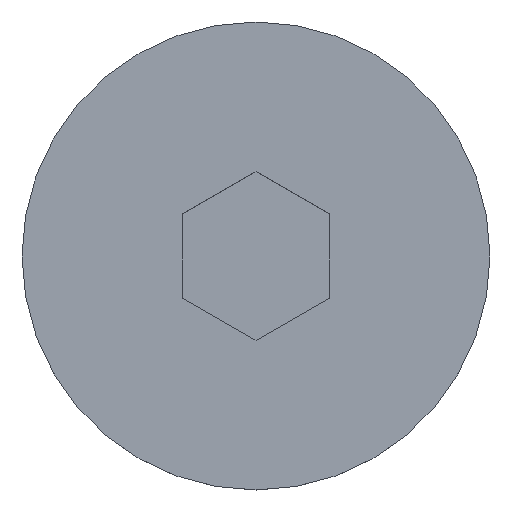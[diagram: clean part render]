
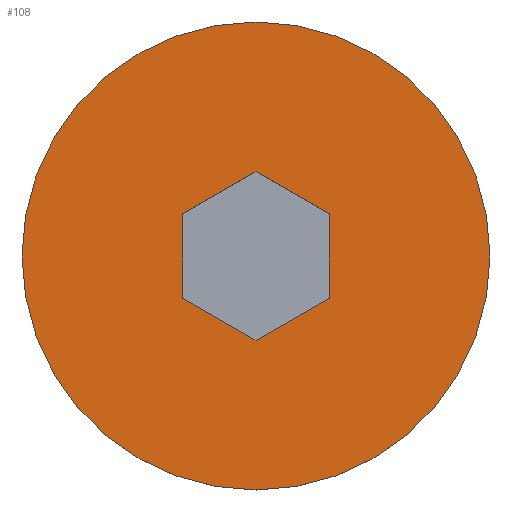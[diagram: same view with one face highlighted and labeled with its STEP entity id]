
A CAD part, top view. The second image highlights one B-rep face of the part: STEP entity #108.
In plain terms, the highlighted planar face has unit normal (0, 0, 1).
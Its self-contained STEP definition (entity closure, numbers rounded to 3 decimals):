
#9 = AXIS2_PLACEMENT_3D ( 'NONE', #195, #129, #385 ) ;
#14 = EDGE_CURVE ( 'NONE', #365, #249, #337, .T. ) ;
#16 = EDGE_LOOP ( 'NONE', ( #51, #358, #205, #197, #330, #402 ) ) ;
#30 = EDGE_LOOP ( 'NONE', ( #294, #293 ) ) ;
#38 = AXIS2_PLACEMENT_3D ( 'NONE', #403, #220, #366 ) ;
#42 = CARTESIAN_POINT ( 'NONE',  ( -9.61, 0., 5.22 ) ) ;
#51 = ORIENTED_EDGE ( 'NONE', *, *, #213, .F. ) ;
#55 = EDGE_CURVE ( 'NONE', #176, #365, #168, .T. ) ;
#75 = VERTEX_POINT ( 'NONE', #351 ) ;
#89 = FACE_OUTER_BOUND ( 'NONE', #30, .T. ) ;
#92 = CARTESIAN_POINT ( 'NONE',  ( 3., 1.732, 5.22 ) ) ;
#97 = DIRECTION ( 'NONE',  ( -0.866, -0.5, 0. ) ) ;
#102 = VECTOR ( 'NONE', #241, 1000. ) ;
#103 = VECTOR ( 'NONE', #97, 1000. ) ;
#104 = EDGE_CURVE ( 'NONE', #113, #75, #243, .T. ) ;
#108 = ADVANCED_FACE ( 'NONE', ( #132, #89 ), #349, .T. ) ;
#112 = VERTEX_POINT ( 'NONE', #92 ) ;
#113 = VERTEX_POINT ( 'NONE', #322 ) ;
#116 = DIRECTION ( 'NONE',  ( -1., 0., 0. ) ) ;
#123 = LINE ( 'NONE', #217, #425 ) ;
#129 = DIRECTION ( 'NONE',  ( 0., 0., 1. ) ) ;
#132 = FACE_BOUND ( 'NONE', #16, .T. ) ;
#152 = CARTESIAN_POINT ( 'NONE',  ( -3., -1.732, 5.22 ) ) ;
#166 = LINE ( 'NONE', #152, #438 ) ;
#168 = LINE ( 'NONE', #408, #103 ) ;
#173 = CARTESIAN_POINT ( 'NONE',  ( -3., 1.732, 5.22 ) ) ;
#176 = VERTEX_POINT ( 'NONE', #313 ) ;
#195 = CARTESIAN_POINT ( 'NONE',  ( -9.61, 0., 5.22 ) ) ;
#197 = ORIENTED_EDGE ( 'NONE', *, *, #307, .F. ) ;
#202 = CARTESIAN_POINT ( 'NONE',  ( 0., -3.464, 5.22 ) ) ;
#203 = AXIS2_PLACEMENT_3D ( 'NONE', #260, #329, #116 ) ;
#204 = CARTESIAN_POINT ( 'NONE',  ( 3., 1.732, 5.22 ) ) ;
#205 = ORIENTED_EDGE ( 'NONE', *, *, #104, .F. ) ;
#213 = EDGE_CURVE ( 'NONE', #112, #176, #321, .T. ) ;
#217 = CARTESIAN_POINT ( 'NONE',  ( 3., -1.732, 5.22 ) ) ;
#220 = DIRECTION ( 'NONE',  ( 0., 0., -1. ) ) ;
#237 = VECTOR ( 'NONE', #278, 1000. ) ;
#239 = EDGE_CURVE ( 'NONE', #338, #412, #447, .T. ) ;
#241 = DIRECTION ( 'NONE',  ( -0.866, 0.5, 0. ) ) ;
#243 = LINE ( 'NONE', #202, #303 ) ;
#249 = VERTEX_POINT ( 'NONE', #291 ) ;
#258 = DIRECTION ( 'NONE',  ( 0.866, -0.5, 0. ) ) ;
#260 = CARTESIAN_POINT ( 'NONE',  ( 0., 0., 5.22 ) ) ;
#273 = CIRCLE ( 'NONE', #203, 9.61 ) ;
#278 = DIRECTION ( 'NONE',  ( 0., -1., 0. ) ) ;
#286 = EDGE_CURVE ( 'NONE', #75, #112, #123, .T. ) ;
#291 = CARTESIAN_POINT ( 'NONE',  ( -3., -1.732, 5.22 ) ) ;
#293 = ORIENTED_EDGE ( 'NONE', *, *, #442, .F. ) ;
#294 = ORIENTED_EDGE ( 'NONE', *, *, #239, .F. ) ;
#303 = VECTOR ( 'NONE', #390, 1000. ) ;
#307 = EDGE_CURVE ( 'NONE', #249, #113, #166, .T. ) ;
#313 = CARTESIAN_POINT ( 'NONE',  ( 0., 3.464, 5.22 ) ) ;
#321 = LINE ( 'NONE', #204, #102 ) ;
#322 = CARTESIAN_POINT ( 'NONE',  ( 0., -3.464, 5.22 ) ) ;
#329 = DIRECTION ( 'NONE',  ( 0., 0., -1. ) ) ;
#330 = ORIENTED_EDGE ( 'NONE', *, *, #14, .F. ) ;
#337 = LINE ( 'NONE', #444, #237 ) ;
#338 = VERTEX_POINT ( 'NONE', #42 ) ;
#349 = PLANE ( 'NONE',  #9 ) ;
#351 = CARTESIAN_POINT ( 'NONE',  ( 3., -1.732, 5.22 ) ) ;
#358 = ORIENTED_EDGE ( 'NONE', *, *, #286, .F. ) ;
#365 = VERTEX_POINT ( 'NONE', #173 ) ;
#366 = DIRECTION ( 'NONE',  ( -1., 0., 0. ) ) ;
#385 = DIRECTION ( 'NONE',  ( 1., 0., 0. ) ) ;
#390 = DIRECTION ( 'NONE',  ( 0.866, 0.5, 0. ) ) ;
#402 = ORIENTED_EDGE ( 'NONE', *, *, #55, .F. ) ;
#403 = CARTESIAN_POINT ( 'NONE',  ( 0., 0., 5.22 ) ) ;
#408 = CARTESIAN_POINT ( 'NONE',  ( 0., 3.464, 5.22 ) ) ;
#412 = VERTEX_POINT ( 'NONE', #433 ) ;
#425 = VECTOR ( 'NONE', #429, 1000. ) ;
#429 = DIRECTION ( 'NONE',  ( 0., 1., 0. ) ) ;
#433 = CARTESIAN_POINT ( 'NONE',  ( 9.61, 0., 5.22 ) ) ;
#438 = VECTOR ( 'NONE', #258, 1000. ) ;
#442 = EDGE_CURVE ( 'NONE', #412, #338, #273, .T. ) ;
#444 = CARTESIAN_POINT ( 'NONE',  ( -3., 1.732, 5.22 ) ) ;
#447 = CIRCLE ( 'NONE', #38, 9.61 ) ;
